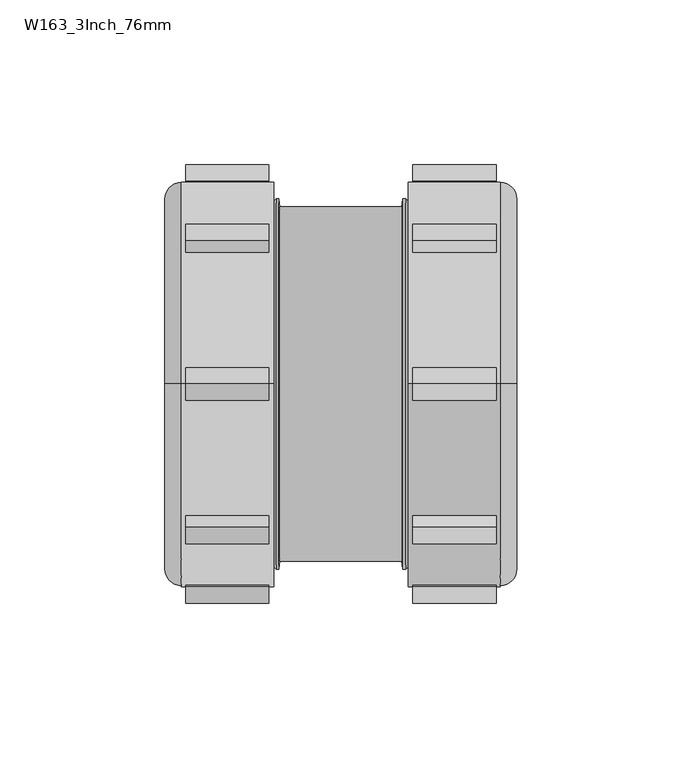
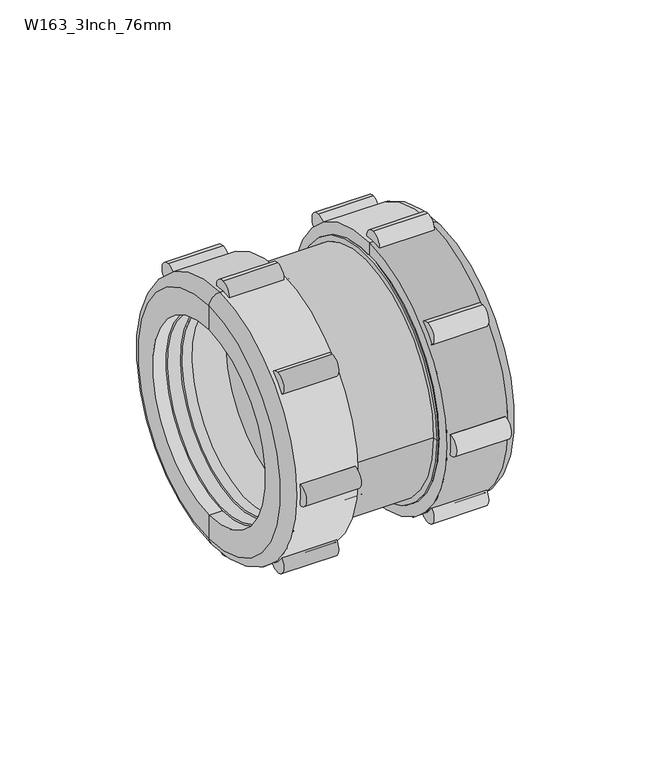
"""IFC4 building model written with IfcOpenShell, lengths in millimetres: pipe fitting geometry, Durapipe_PipeFitting_VulcatheneMechanical_LineCoupler_W16 : W163_3Inch_76mm."""

from ifc_helpers import new_model, si_unit, point, frame, frame_2d, origin, place, context, project, spatial, polyline, circle_curve, ellipse_curve, trimmed, segment, composite_curve, outline, extrude, source, transform, mapped, element, save
from ifc_brep_helpers import plane_surface, cylinder_surface, revolved_surface, advanced_brep


def w163_3inch_76mm_f9ff3fc3(model_context):
    return source(origin(), model_context, "Body", "SolidModel", [
        advanced_brep(
        [(47.1, -35.9917352, 35.9917352), (47.1, 35.9917352, -35.9917352), (47.1, 31.3248304, -31.3248304), (47.1, -31.3248304, 31.3248304), (26.8, -32.8804653, 32.8804653), (26.8, 32.8804653, -32.8804653), (2.1, -32.8804653, 32.8804653), (2.1, 32.8804653, -32.8804653), (2.1, -31.3248304, 31.3248304), (2.1, 31.3248304, -31.3248304), (36.4, -31.3248304, 31.3248304), (36.4, 31.3248304, -31.3248304), (36.4, -30.6884343, 30.6884343), (36.4, 30.6884343, -30.6884343), (41.0, -31.3248304, 31.3248304), (41.0, 31.3248304, -31.3248304), (41.0, 30.6884343, -30.6884343), (41.0, -30.6884343, 30.6884343)],
        [
            (0, 1, circle_curve(frame((47.1, 0.0, 0.0), z_axis=(1.0, 0.0, 0.0), x_axis=(0.0, 0.7071067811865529, -0.7071067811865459)), 50.9)),
            (1, 2),
            (2, 3, circle_curve(frame((47.1, 0.0, 0.0), z_axis=(-1.0, 0.0, 0.0), x_axis=(0.0, 0.7071067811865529, -0.7071067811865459)), 44.3)),
            (3, 0),
            (1, 0, circle_curve(frame((47.1, 0.0, 0.0), z_axis=(1.0, 0.0, 0.0), x_axis=(0.0, 0.7071067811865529, -0.7071067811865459)), 50.9)),
            (3, 2, circle_curve(frame((47.1, 0.0, 0.0), z_axis=(-1.0, 0.0, 0.0), x_axis=(0.0, 0.7071067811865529, -0.7071067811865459)), 44.3)),
            (0, 4),
            (4, 5, circle_curve(frame((26.8, 0.0, 0.0), z_axis=(1.0, 0.0, 0.0), x_axis=(0.0, 0.7071067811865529, -0.7071067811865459)), 46.5)),
            (5, 1),
            (5, 4, circle_curve(frame((26.8, 0.0, 0.0), z_axis=(1.0, 0.0, 0.0), x_axis=(0.0, 0.7071067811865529, -0.7071067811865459)), 46.5)),
            (6, 7, circle_curve(frame((2.1, 0.0, 0.0), z_axis=(1.0, 0.0, 0.0), x_axis=(0.0, 0.7071067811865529, -0.7071067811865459)), 46.5)),
            (7, 5),
            (4, 6),
            (7, 6, circle_curve(frame((2.1, 0.0, 0.0), z_axis=(1.0, 0.0, 0.0), x_axis=(0.0, 0.7071067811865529, -0.7071067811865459)), 46.5)),
            (6, 8),
            (8, 9, circle_curve(frame((2.1, 0.0, 0.0), z_axis=(1.0, 0.0, 0.0), x_axis=(0.0, 0.7071067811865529, -0.7071067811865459)), 44.3)),
            (9, 7),
            (9, 8, circle_curve(frame((2.1, 0.0, 0.0), z_axis=(1.0, 0.0, 0.0), x_axis=(0.0, 0.7071067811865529, -0.7071067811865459)), 44.3)),
            (8, 10),
            (10, 11, circle_curve(frame((36.4, 0.0, 0.0), z_axis=(1.0, 0.0, 0.0), x_axis=(0.0, 0.7071067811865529, -0.7071067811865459)), 44.3)),
            (11, 9),
            (11, 10, circle_curve(frame((36.4, 0.0, 0.0), z_axis=(1.0, 0.0, 0.0), x_axis=(0.0, 0.7071067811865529, -0.7071067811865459)), 44.3)),
            (10, 12),
            (12, 13, circle_curve(frame((36.4, 0.0, 0.0), z_axis=(1.0, 0.0, 0.0), x_axis=(0.0, 0.7071067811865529, -0.7071067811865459)), 43.4)),
            (13, 11),
            (13, 12, circle_curve(frame((36.4, 0.0, 0.0), z_axis=(1.0, 0.0, 0.0), x_axis=(0.0, 0.7071067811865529, -0.7071067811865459)), 43.4)),
            (14, 15, circle_curve(frame((41.0, 0.0, 0.0), z_axis=(1.0, 0.0, 0.0), x_axis=(0.0, 0.7071067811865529, -0.7071067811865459)), 44.3)),
            (15, 16),
            (16, 17, circle_curve(frame((41.0, 0.0, 0.0), z_axis=(-1.0, 0.0, 0.0), x_axis=(0.0, 0.7071067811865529, -0.7071067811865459)), 43.4)),
            (17, 14),
            (15, 14, circle_curve(frame((41.0, 0.0, 0.0), z_axis=(1.0, 0.0, 0.0), x_axis=(0.0, 0.7071067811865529, -0.7071067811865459)), 44.3)),
            (17, 16, circle_curve(frame((41.0, 0.0, 0.0), z_axis=(-1.0, 0.0, 0.0), x_axis=(0.0, 0.7071067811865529, -0.7071067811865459)), 43.4)),
            (2, 15),
            (14, 3),
            (12, 17),
            (16, 13),
        ],
        [
            plane_surface(frame((47.1, 0.0, 0.0), z_axis=(1.0, 0.0, 0.0), x_axis=(0.0, 0.707106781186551, -0.707106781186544))),
            revolved_surface(polyline([(47.1, 35.9917352, -35.9917352), (26.8, 32.8804653, -32.8804653)]), (52.1, 0.0, 0.0), (-1.0000000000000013, 0.0, 0.0)),
            cylinder_surface(frame((0.0293443, 0.0, 0.0), z_axis=(-1.0000000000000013, 0.0, 0.0), x_axis=(0.0, 0.7071067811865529, -0.7071067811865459)), 46.5),
            plane_surface(frame((2.1, 0.0, 0.0), z_axis=(-1.0, 0.0, 0.0), x_axis=(0.0, 0.707106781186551, -0.707106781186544))),
            revolved_surface(polyline([(2.1000000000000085, 31.324830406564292, -31.324830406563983), (36.4000000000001, 31.324830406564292, -31.324830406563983)]), (-1.392991, 0.0, 0.0), (-1.0000000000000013, 0.0, 0.0)),
            plane_surface(frame((36.4, 0.0, 0.0), z_axis=(-1.0, 0.0, 0.0), x_axis=(0.0, 0.707106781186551, -0.707106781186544))),
            plane_surface(frame((41.0, 0.0, 0.0), z_axis=(1.0, 0.0, 0.0), x_axis=(0.0, 0.707106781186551, -0.707106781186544))),
            revolved_surface(polyline([(40.99999999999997, 31.324830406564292, -31.324830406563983), (47.09999999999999, 31.324830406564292, -31.324830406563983)]), (52.1, 0.0, 0.0), (-1.0000000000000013, 0.0, 0.0)),
            revolved_surface(polyline([(36.39999999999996, 30.688434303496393, -30.68843430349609), (40.99999999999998, 30.688434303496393, -30.68843430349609)]), (48.6661924, 0.0, 0.0), (-1.0000000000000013, 0.0, 0.0)),
        ],
        [
            (0, [[1, 2, 3, 4]]),
            (0, [[-2, 5, -4, 6]]),
            (1, [[-1, 7, 8, 9]]),
            (1, [[-5, -9, 10, -7]]),
            (2, [[11, 12, -8, 13]]),
            (2, [[-12, 14, -13, -10]]),
            (3, [[-11, 15, 16, 17]]),
            (3, [[-14, -17, 18, -15]]),
            (4, [[19, 20, 21, -16]]),
            (4, [[-19, -18, -21, 22]]),
            (5, [[-20, 23, 24, 25]]),
            (5, [[-22, -25, 26, -23]]),
            (6, [[27, 28, 29, 30]]),
            (6, [[31, -30, 32, -28]]),
            (7, [[-3, 33, -27, 34]]),
            (7, [[-6, -34, -31, -33]]),
            (8, [[35, -29, 36, -24]]),
            (8, [[-35, -26, -36, -32]]),
        ],
    ),
        advanced_brep(
        [(20.4, 0.0, 61.5), (20.4, 0.0, -61.5), (48.4, 0.0, -61.5), (48.4, 0.0, 61.5), (20.4, 0.0, 53.0), (20.4, 0.0, -53.0), (53.4, 0.0, 56.5), (53.4, 0.0, -56.5), (53.4, 0.0, -45.0), (53.4, 0.0, 45.0), (47.1, 0.0, 53.0), (47.1, 0.0, -53.0), (47.1, 0.0, 45.0), (47.1, 0.0, -45.0)],
        [
            (0, 1, circle_curve(frame((20.4, 0.0, 0.0), z_axis=(1.0, 0.0, 0.0), x_axis=(0.0, 0.0, -1.0000000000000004)), 61.5)),
            (1, 2),
            (2, 3, circle_curve(frame((48.4, 0.0, 0.0), z_axis=(-1.0, 0.0, 0.0), x_axis=(0.0, 0.0, -1.0000000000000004)), 61.5)),
            (3, 0),
            (1, 0, circle_curve(frame((20.4, 0.0, 0.0), z_axis=(1.0, 0.0, 0.0), x_axis=(0.0, 0.0, -1.0000000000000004)), 61.5)),
            (3, 2, circle_curve(frame((48.4, 0.0, 0.0), z_axis=(-1.0, 0.0, 0.0), x_axis=(0.0, 0.0, -1.0000000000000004)), 61.5)),
            (4, 5, circle_curve(frame((20.4, 0.0, 0.0), z_axis=(1.0, 0.0, 0.0), x_axis=(0.0, 0.0, -1.0000000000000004)), 53.0)),
            (5, 1),
            (0, 4),
            (5, 4, circle_curve(frame((20.4, 0.0, 0.0), z_axis=(1.0, 0.0, 0.0), x_axis=(0.0, 0.0, -1.0000000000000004)), 53.0)),
            (6, 7, circle_curve(frame((53.4, 0.0, 0.0), z_axis=(1.0, 0.0, 0.0), x_axis=(0.0, 0.0, -1.0000000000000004)), 56.5)),
            (7, 8),
            (8, 9, circle_curve(frame((53.4, 0.0, 0.0), z_axis=(-1.0, 0.0, 0.0), x_axis=(0.0, 0.0, -1.0000000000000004)), 45.0)),
            (9, 6),
            (7, 6, circle_curve(frame((53.4, 0.0, 0.0), z_axis=(1.0, 0.0, 0.0), x_axis=(0.0, 0.0, -1.0000000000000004)), 56.5)),
            (9, 8, circle_curve(frame((53.4, 0.0, 0.0), z_axis=(-1.0, 0.0, 0.0), x_axis=(0.0, 0.0, -1.0000000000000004)), 45.0)),
            (2, 7, circle_curve(frame((48.4, 0.0, -56.5), z_axis=(0.0, -1.0000000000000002, 0.0), x_axis=(1.0000000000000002, 0.0, 0.0)), 5.0)),
            (6, 3, circle_curve(frame((48.4, 0.0, 56.5), z_axis=(0.0, -1.0000000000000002, 0.0), x_axis=(1.0000000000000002, 0.0, 0.0)), 5.0)),
            (10, 11, circle_curve(frame((47.1, 0.0, 0.0), z_axis=(1.0, 0.0, 0.0), x_axis=(0.0, 0.0, -1.0000000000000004)), 53.0)),
            (11, 5),
            (4, 10),
            (11, 10, circle_curve(frame((47.1, 0.0, 0.0), z_axis=(1.0, 0.0, 0.0), x_axis=(0.0, 0.0, -1.0000000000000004)), 53.0)),
            (12, 13, circle_curve(frame((47.1, 0.0, 0.0), z_axis=(1.0, 0.0, 0.0), x_axis=(0.0, 0.0, -1.0000000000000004)), 45.0)),
            (13, 11),
            (10, 12),
            (13, 12, circle_curve(frame((47.1, 0.0, 0.0), z_axis=(1.0, 0.0, 0.0), x_axis=(0.0, 0.0, -1.0000000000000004)), 45.0)),
            (8, 13),
            (12, 9),
        ],
        [
            cylinder_surface(frame((1614.2018184, 0.0, 0.0), z_axis=(-1.0000000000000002, 0.0, 0.0), x_axis=(0.0, 0.0, -1.0000000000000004)), 61.5),
            plane_surface(frame((20.4, 0.0, 0.0), z_axis=(-1.0, 0.0, 0.0), x_axis=(0.0, 0.0, -1.0))),
            plane_surface(frame((53.4, 0.0, 0.0), z_axis=(1.0, 0.0, 0.0), x_axis=(0.0, 0.0, -1.0))),
            revolved_surface(trimmed(ellipse_curve(frame((48.4, 0.0, -56.5), z_axis=(0.0, 1.0000000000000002, 0.0), x_axis=(1.0000000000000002, 0.0, 0.0)), 5.0, 5.0), [point((53.4, 0.0, -56.5))], [point((48.4, 0.0, -61.5))], True, "CARTESIAN"), (1614.2018184, 0.0, 0.0), (-1.0000000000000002, 0.0, 0.0)),
            revolved_surface(polyline([(20.39999999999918, 0.0, -53.00000000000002), (47.099999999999, 0.0, -53.00000000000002)]), (1614.2018184, 0.0, 0.0), (-1.0000000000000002, 0.0, 0.0)),
            plane_surface(frame((47.1, 0.0, 0.0), z_axis=(-1.0, 0.0, 0.0), x_axis=(0.0, 0.0, -1.0))),
            revolved_surface(polyline([(47.099999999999, 0.0, -45.00000000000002), (53.39999999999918, 0.0, -45.00000000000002)]), (1614.2018184, 0.0, 0.0), (-1.0000000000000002, 0.0, 0.0)),
        ],
        [
            (0, [[1, 2, 3, 4]]),
            (0, [[5, -4, 6, -2]]),
            (1, [[7, 8, -1, 9]]),
            (1, [[10, -9, -5, -8]]),
            (2, [[11, 12, 13, 14]]),
            (2, [[15, -14, 16, -12]]),
            (3, [[-3, 17, -11, 18]]),
            (3, [[-6, -18, -15, -17]]),
            (4, [[19, 20, -7, 21]]),
            (4, [[22, -21, -10, -20]]),
            (5, [[23, 24, -19, 25]]),
            (5, [[26, -25, -22, -24]]),
            (6, [[-13, 27, -23, 28]]),
            (6, [[-16, -28, -26, -27]]),
        ],
    ),
        extrude(outline(composite_curve([segment(trimmed(circle_curve(frame_2d((61.5, 0.0)), 5.0), [point((61.5, 5.0))], [point((61.5, -5.0))], False, "CARTESIAN"), True, "CONTINUOUS"), segment(trimmed(circle_curve(frame_2d((61.5, 0.0)), 5.0), [point((61.5, -5.0))], [point((61.5, 5.0))], False, "CARTESIAN"), True, "CONTINUOUS")], self_intersect=False)), frame((21.9, 0.0, 0.0), z_axis=(1.0, 0.0, 0.0), x_axis=(0.0, 1.0, 0.0)), (0.0, 0.0, 1.0), 25.2),
        extrude(outline(composite_curve([segment(trimmed(circle_curve(frame_2d((43.487067, -43.487067)), 5.0), [point((43.487067, -38.487067))], [point((43.487067, -48.487067))], False, "CARTESIAN"), True, "CONTINUOUS"), segment(trimmed(circle_curve(frame_2d((43.487067, -43.487067)), 5.0), [point((43.487067, -48.487067))], [point((43.487067, -38.487067))], False, "CARTESIAN"), True, "CONTINUOUS")], self_intersect=False)), frame((21.9, 0.0, 0.0), z_axis=(1.0, 0.0, 0.0), x_axis=(0.0, 1.0, 0.0)), (0.0, 0.0, 1.0), 25.2),
        extrude(outline(composite_curve([segment(trimmed(circle_curve(frame_2d((0.0, -61.5)), 5.0), [point((0.0, -56.5))], [point((0.0, -66.5))], False, "CARTESIAN"), True, "CONTINUOUS"), segment(trimmed(circle_curve(frame_2d((0.0, -61.5)), 5.0), [point((0.0, -66.5))], [point((0.0, -56.5))], False, "CARTESIAN"), True, "CONTINUOUS")], self_intersect=False)), frame((21.9, 0.0, 0.0), z_axis=(1.0, 0.0, 0.0), x_axis=(0.0, 1.0, 0.0)), (0.0, 0.0, 1.0), 25.2),
        extrude(outline(composite_curve([segment(trimmed(circle_curve(frame_2d((-43.487067, -43.487067)), 5.0), [point((-43.487067, -38.487067))], [point((-43.487067, -48.487067))], False, "CARTESIAN"), True, "CONTINUOUS"), segment(trimmed(circle_curve(frame_2d((-43.487067, -43.487067)), 5.0), [point((-43.487067, -48.487067))], [point((-43.487067, -38.487067))], False, "CARTESIAN"), True, "CONTINUOUS")], self_intersect=False)), frame((21.9, 0.0, 0.0), z_axis=(1.0, 0.0, 0.0), x_axis=(0.0, 1.0, 0.0)), (0.0, 0.0, 1.0), 25.2),
        extrude(outline(composite_curve([segment(trimmed(circle_curve(frame_2d((-61.5, 0.0)), 5.0), [point((-61.5, 5.0))], [point((-61.5, -5.0))], False, "CARTESIAN"), True, "CONTINUOUS"), segment(trimmed(circle_curve(frame_2d((-61.5, 0.0)), 5.0), [point((-61.5, -5.0))], [point((-61.5, 5.0))], False, "CARTESIAN"), True, "CONTINUOUS")], self_intersect=False)), frame((21.9, 0.0, 0.0), z_axis=(1.0, 0.0, 0.0), x_axis=(0.0, 1.0, 0.0)), (0.0, 0.0, 1.0), 25.2),
        extrude(outline(composite_curve([segment(trimmed(circle_curve(frame_2d((-43.487067, 43.487067)), 5.0), [point((-43.487067, 48.487067))], [point((-43.487067, 38.487067))], False, "CARTESIAN"), True, "CONTINUOUS"), segment(trimmed(circle_curve(frame_2d((-43.487067, 43.487067)), 5.0), [point((-43.487067, 38.487067))], [point((-43.487067, 48.487067))], False, "CARTESIAN"), True, "CONTINUOUS")], self_intersect=False)), frame((21.9, 0.0, 0.0), z_axis=(1.0, 0.0, 0.0), x_axis=(0.0, 1.0, 0.0)), (0.0, 0.0, 1.0), 25.2),
        extrude(outline(composite_curve([segment(trimmed(circle_curve(frame_2d((0.0, 61.5)), 5.0), [point((0.0, 66.5))], [point((0.0, 56.5))], False, "CARTESIAN"), True, "CONTINUOUS"), segment(trimmed(circle_curve(frame_2d((0.0, 61.5)), 5.0), [point((0.0, 56.5))], [point((0.0, 66.5))], False, "CARTESIAN"), True, "CONTINUOUS")], self_intersect=False)), frame((21.9, 0.0, 0.0), z_axis=(1.0, 0.0, 0.0), x_axis=(0.0, 1.0, 0.0)), (0.0, 0.0, 1.0), 25.2),
        extrude(outline(composite_curve([segment(trimmed(circle_curve(frame_2d((43.487067, 43.487067)), 5.0), [point((43.487067, 48.487067))], [point((43.487067, 38.487067))], False, "CARTESIAN"), True, "CONTINUOUS"), segment(trimmed(circle_curve(frame_2d((43.487067, 43.487067)), 5.0), [point((43.487067, 38.487067))], [point((43.487067, 48.487067))], False, "CARTESIAN"), True, "CONTINUOUS")], self_intersect=False)), frame((21.9, 0.0, 0.0), z_axis=(1.0, 0.0, 0.0), x_axis=(0.0, 1.0, 0.0)), (0.0, 0.0, 1.0), 25.2),
        advanced_brep(
        [(-47.1, -35.9917352, -35.9917352), (-47.1, 35.9917352, 35.9917352), (-47.1, 31.3248304, 31.3248304), (-47.1, -31.3248304, -31.3248304), (-26.8, -32.8804653, -32.8804653), (-26.8, 32.8804653, 32.8804653), (-2.1, -32.8804653, -32.8804653), (-2.1, 32.8804653, 32.8804653), (-2.1, -31.3248304, -31.3248304), (-2.1, 31.3248304, 31.3248304), (-36.4, -31.3248304, -31.3248304), (-36.4, 31.3248304, 31.3248304), (-36.4, -30.6884343, -30.6884343), (-36.4, 30.6884343, 30.6884343), (-41.0, -31.3248304, -31.3248304), (-41.0, 31.3248304, 31.3248304), (-41.0, 30.6884343, 30.6884343), (-41.0, -30.6884343, -30.6884343)],
        [
            (0, 1, circle_curve(frame((-47.1, 0.0, 0.0), z_axis=(-1.0, 0.0, 0.0), x_axis=(0.0, 0.7071067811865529, 0.7071067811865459)), 50.9)),
            (1, 2),
            (2, 3, circle_curve(frame((-47.1, 0.0, 0.0), z_axis=(1.0, 0.0, 0.0), x_axis=(0.0, 0.7071067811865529, 0.7071067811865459)), 44.3)),
            (3, 0),
            (1, 0, circle_curve(frame((-47.1, 0.0, 0.0), z_axis=(-1.0, 0.0, 0.0), x_axis=(0.0, 0.7071067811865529, 0.7071067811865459)), 50.9)),
            (3, 2, circle_curve(frame((-47.1, 0.0, 0.0), z_axis=(1.0, 0.0, 0.0), x_axis=(0.0, 0.7071067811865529, 0.7071067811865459)), 44.3)),
            (0, 4),
            (4, 5, circle_curve(frame((-26.8, 0.0, 0.0), z_axis=(-1.0, 0.0, 0.0), x_axis=(0.0, 0.7071067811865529, 0.7071067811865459)), 46.5)),
            (5, 1),
            (5, 4, circle_curve(frame((-26.8, 0.0, 0.0), z_axis=(-1.0, 0.0, 0.0), x_axis=(0.0, 0.7071067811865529, 0.7071067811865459)), 46.5)),
            (6, 7, circle_curve(frame((-2.1, 0.0, 0.0), z_axis=(-1.0, 0.0, 0.0), x_axis=(0.0, 0.7071067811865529, 0.7071067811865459)), 46.5)),
            (7, 5),
            (4, 6),
            (7, 6, circle_curve(frame((-2.1, 0.0, 0.0), z_axis=(-1.0, 0.0, 0.0), x_axis=(0.0, 0.7071067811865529, 0.7071067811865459)), 46.5)),
            (6, 8),
            (8, 9, circle_curve(frame((-2.1, 0.0, 0.0), z_axis=(-1.0, 0.0, 0.0), x_axis=(0.0, 0.7071067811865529, 0.7071067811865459)), 44.3)),
            (9, 7),
            (9, 8, circle_curve(frame((-2.1, 0.0, 0.0), z_axis=(-1.0, 0.0, 0.0), x_axis=(0.0, 0.7071067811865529, 0.7071067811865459)), 44.3)),
            (8, 10),
            (10, 11, circle_curve(frame((-36.4, 0.0, 0.0), z_axis=(-1.0, 0.0, 0.0), x_axis=(0.0, 0.7071067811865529, 0.7071067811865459)), 44.3)),
            (11, 9),
            (11, 10, circle_curve(frame((-36.4, 0.0, 0.0), z_axis=(-1.0, 0.0, 0.0), x_axis=(0.0, 0.7071067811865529, 0.7071067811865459)), 44.3)),
            (10, 12),
            (12, 13, circle_curve(frame((-36.4, 0.0, 0.0), z_axis=(-1.0, 0.0, 0.0), x_axis=(0.0, 0.7071067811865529, 0.7071067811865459)), 43.4)),
            (13, 11),
            (13, 12, circle_curve(frame((-36.4, 0.0, 0.0), z_axis=(-1.0, 0.0, 0.0), x_axis=(0.0, 0.7071067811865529, 0.7071067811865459)), 43.4)),
            (14, 15, circle_curve(frame((-41.0, 0.0, 0.0), z_axis=(-1.0, 0.0, 0.0), x_axis=(0.0, 0.7071067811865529, 0.7071067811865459)), 44.3)),
            (15, 16),
            (16, 17, circle_curve(frame((-41.0, 0.0, 0.0), z_axis=(1.0, 0.0, 0.0), x_axis=(0.0, 0.7071067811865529, 0.7071067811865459)), 43.4)),
            (17, 14),
            (15, 14, circle_curve(frame((-41.0, 0.0, 0.0), z_axis=(-1.0, 0.0, 0.0), x_axis=(0.0, 0.7071067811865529, 0.7071067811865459)), 44.3)),
            (17, 16, circle_curve(frame((-41.0, 0.0, 0.0), z_axis=(1.0, 0.0, 0.0), x_axis=(0.0, 0.7071067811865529, 0.7071067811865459)), 43.4)),
            (2, 15),
            (14, 3),
            (12, 17),
            (16, 13),
        ],
        [
            plane_surface(frame((-47.1, 0.0, 0.0), z_axis=(-1.0, 0.0, 0.0), x_axis=(0.0, 0.707106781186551, 0.707106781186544))),
            revolved_surface(polyline([(-47.1, 35.9917352, 35.9917352), (-26.8, 32.8804653, 32.8804653)]), (-52.1, 0.0, 0.0), (1.0000000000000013, 0.0, 0.0)),
            cylinder_surface(frame((-0.0293443, 0.0, 0.0), z_axis=(1.0000000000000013, 0.0, 0.0), x_axis=(0.0, 0.7071067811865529, 0.7071067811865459)), 46.5),
            plane_surface(frame((-2.1, 0.0, 0.0), z_axis=(1.0, 0.0, 0.0), x_axis=(0.0, 0.707106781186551, 0.707106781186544))),
            revolved_surface(polyline([(-2.1000000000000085, 31.324830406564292, 31.324830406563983), (-36.4000000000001, 31.324830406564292, 31.324830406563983)]), (1.392991, 0.0, 0.0), (1.0000000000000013, 0.0, 0.0)),
            plane_surface(frame((-36.4, 0.0, 0.0), z_axis=(1.0, 0.0, 0.0), x_axis=(0.0, 0.707106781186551, 0.707106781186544))),
            plane_surface(frame((-41.0, 0.0, 0.0), z_axis=(-1.0, 0.0, 0.0), x_axis=(0.0, 0.707106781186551, 0.707106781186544))),
            revolved_surface(polyline([(-40.99999999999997, 31.324830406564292, 31.324830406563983), (-47.09999999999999, 31.324830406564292, 31.324830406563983)]), (-52.1, 0.0, 0.0), (1.0000000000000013, 0.0, 0.0)),
            revolved_surface(polyline([(-36.39999999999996, 30.688434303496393, 30.68843430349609), (-40.99999999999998, 30.688434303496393, 30.68843430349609)]), (-48.6661924, 0.0, 0.0), (1.0000000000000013, 0.0, 0.0)),
        ],
        [
            (0, [[1, 2, 3, 4]]),
            (0, [[-2, 5, -4, 6]]),
            (1, [[-1, 7, 8, 9]]),
            (1, [[-5, -9, 10, -7]]),
            (2, [[11, 12, -8, 13]]),
            (2, [[-12, 14, -13, -10]]),
            (3, [[-11, 15, 16, 17]]),
            (3, [[-14, -17, 18, -15]]),
            (4, [[19, 20, 21, -16]]),
            (4, [[-19, -18, -21, 22]]),
            (5, [[-20, 23, 24, 25]]),
            (5, [[-22, -25, 26, -23]]),
            (6, [[27, 28, 29, 30]]),
            (6, [[31, -30, 32, -28]]),
            (7, [[-3, 33, -27, 34]]),
            (7, [[-6, -34, -31, -33]]),
            (8, [[35, -29, 36, -24]]),
            (8, [[-35, -26, -36, -32]]),
        ],
    ),
        advanced_brep(
        [(-20.4, 0.0, -61.5), (-20.4, 0.0, 61.5), (-48.4, 0.0, 61.5), (-48.4, 0.0, -61.5), (-20.4, 0.0, -53.0), (-20.4, 0.0, 53.0), (-53.4, 0.0, -56.5), (-53.4, 0.0, 56.5), (-53.4, 0.0, 45.0), (-53.4, 0.0, -45.0), (-47.1, 0.0, -53.0), (-47.1, 0.0, 53.0), (-47.1, 0.0, -45.0), (-47.1, 0.0, 45.0)],
        [
            (0, 1, circle_curve(frame((-20.4, 0.0, 0.0), z_axis=(-1.0, 0.0, 0.0), x_axis=(0.0, 0.0, 1.0000000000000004)), 61.5)),
            (1, 2),
            (2, 3, circle_curve(frame((-48.4, 0.0, 0.0), z_axis=(1.0, 0.0, 0.0), x_axis=(0.0, 0.0, 1.0000000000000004)), 61.5)),
            (3, 0),
            (1, 0, circle_curve(frame((-20.4, 0.0, 0.0), z_axis=(-1.0, 0.0, 0.0), x_axis=(0.0, 0.0, 1.0000000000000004)), 61.5)),
            (3, 2, circle_curve(frame((-48.4, 0.0, 0.0), z_axis=(1.0, 0.0, 0.0), x_axis=(0.0, 0.0, 1.0000000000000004)), 61.5)),
            (4, 5, circle_curve(frame((-20.4, 0.0, 0.0), z_axis=(-1.0, 0.0, 0.0), x_axis=(0.0, 0.0, 1.0000000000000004)), 53.0)),
            (5, 1),
            (0, 4),
            (5, 4, circle_curve(frame((-20.4, 0.0, 0.0), z_axis=(-1.0, 0.0, 0.0), x_axis=(0.0, 0.0, 1.0000000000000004)), 53.0)),
            (6, 7, circle_curve(frame((-53.4, 0.0, 0.0), z_axis=(-1.0, 0.0, 0.0), x_axis=(0.0, 0.0, 1.0000000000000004)), 56.5)),
            (7, 8),
            (8, 9, circle_curve(frame((-53.4, 0.0, 0.0), z_axis=(1.0, 0.0, 0.0), x_axis=(0.0, 0.0, 1.0000000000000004)), 45.0)),
            (9, 6),
            (7, 6, circle_curve(frame((-53.4, 0.0, 0.0), z_axis=(-1.0, 0.0, 0.0), x_axis=(0.0, 0.0, 1.0000000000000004)), 56.5)),
            (9, 8, circle_curve(frame((-53.4, 0.0, 0.0), z_axis=(1.0, 0.0, 0.0), x_axis=(0.0, 0.0, 1.0000000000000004)), 45.0)),
            (2, 7, circle_curve(frame((-48.4, 0.0, 56.5), z_axis=(0.0, -1.0000000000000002, 0.0), x_axis=(-1.0000000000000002, 0.0, 0.0)), 5.0)),
            (6, 3, circle_curve(frame((-48.4, 0.0, -56.5), z_axis=(0.0, -1.0000000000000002, 0.0), x_axis=(-1.0000000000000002, 0.0, 0.0)), 5.0)),
            (10, 11, circle_curve(frame((-47.1, 0.0, 0.0), z_axis=(-1.0, 0.0, 0.0), x_axis=(0.0, 0.0, 1.0000000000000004)), 53.0)),
            (11, 5),
            (4, 10),
            (11, 10, circle_curve(frame((-47.1, 0.0, 0.0), z_axis=(-1.0, 0.0, 0.0), x_axis=(0.0, 0.0, 1.0000000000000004)), 53.0)),
            (12, 13, circle_curve(frame((-47.1, 0.0, 0.0), z_axis=(-1.0, 0.0, 0.0), x_axis=(0.0, 0.0, 1.0000000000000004)), 45.0)),
            (13, 11),
            (10, 12),
            (13, 12, circle_curve(frame((-47.1, 0.0, 0.0), z_axis=(-1.0, 0.0, 0.0), x_axis=(0.0, 0.0, 1.0000000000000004)), 45.0)),
            (8, 13),
            (12, 9),
        ],
        [
            cylinder_surface(frame((-1614.2018184, 0.0, 0.0), z_axis=(1.0000000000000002, 0.0, 0.0), x_axis=(0.0, 0.0, 1.0000000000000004)), 61.5),
            plane_surface(frame((-20.4, 0.0, 0.0), z_axis=(1.0, 0.0, 0.0), x_axis=(0.0, 0.0, 1.0))),
            plane_surface(frame((-53.4, 0.0, 0.0), z_axis=(-1.0, 0.0, 0.0), x_axis=(0.0, 0.0, 1.0))),
            revolved_surface(trimmed(ellipse_curve(frame((-48.4, 0.0, 56.5), z_axis=(0.0, 1.0000000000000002, 0.0), x_axis=(-1.0000000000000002, 0.0, 0.0)), 5.0, 5.0), [point((-53.4, 0.0, 56.5))], [point((-48.4, 0.0, 61.5))], True, "CARTESIAN"), (-1614.2018184, 0.0, 0.0), (1.0000000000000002, 0.0, 0.0)),
            revolved_surface(polyline([(-20.39999999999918, 0.0, 53.00000000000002), (-47.099999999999, 0.0, 53.00000000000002)]), (-1614.2018184, 0.0, 0.0), (1.0000000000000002, 0.0, 0.0)),
            plane_surface(frame((-47.1, 0.0, 0.0), z_axis=(1.0, 0.0, 0.0), x_axis=(0.0, 0.0, 1.0))),
            revolved_surface(polyline([(-47.099999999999, 0.0, 45.00000000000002), (-53.39999999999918, 0.0, 45.00000000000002)]), (-1614.2018184, 0.0, 0.0), (1.0000000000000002, 0.0, 0.0)),
        ],
        [
            (0, [[1, 2, 3, 4]]),
            (0, [[5, -4, 6, -2]]),
            (1, [[7, 8, -1, 9]]),
            (1, [[10, -9, -5, -8]]),
            (2, [[11, 12, 13, 14]]),
            (2, [[15, -14, 16, -12]]),
            (3, [[-3, 17, -11, 18]]),
            (3, [[-6, -18, -15, -17]]),
            (4, [[19, 20, -7, 21]]),
            (4, [[22, -21, -10, -20]]),
            (5, [[23, 24, -19, 25]]),
            (5, [[26, -25, -22, -24]]),
            (6, [[-13, 27, -23, 28]]),
            (6, [[-16, -28, -26, -27]]),
        ],
    ),
        extrude(outline(composite_curve([segment(trimmed(circle_curve(frame_2d((61.5, 0.0)), 5.0), [point((61.5, -5.0))], [point((61.5, 5.0))], False, "CARTESIAN"), True, "CONTINUOUS"), segment(trimmed(circle_curve(frame_2d((61.5, 0.0)), 5.0), [point((61.5, 5.0))], [point((61.5, -5.0))], False, "CARTESIAN"), True, "CONTINUOUS")], self_intersect=False)), frame((-47.1, 0.0, 0.0), z_axis=(1.0, 0.0, 0.0), x_axis=(0.0, 1.0, 0.0)), (0.0, 0.0, 1.0), 25.2),
        extrude(outline(composite_curve([segment(trimmed(circle_curve(frame_2d((43.487067, 43.487067)), 5.0), [point((43.487067, 38.487067))], [point((43.487067, 48.487067))], False, "CARTESIAN"), True, "CONTINUOUS"), segment(trimmed(circle_curve(frame_2d((43.487067, 43.487067)), 5.0), [point((43.487067, 48.487067))], [point((43.487067, 38.487067))], False, "CARTESIAN"), True, "CONTINUOUS")], self_intersect=False)), frame((-47.1, 0.0, 0.0), z_axis=(1.0, 0.0, 0.0), x_axis=(0.0, 1.0, 0.0)), (0.0, 0.0, 1.0), 25.2),
        extrude(outline(composite_curve([segment(trimmed(circle_curve(frame_2d((0.0, 61.5)), 5.0), [point((0.0, 56.5))], [point((0.0, 66.5))], False, "CARTESIAN"), True, "CONTINUOUS"), segment(trimmed(circle_curve(frame_2d((0.0, 61.5)), 5.0), [point((0.0, 66.5))], [point((0.0, 56.5))], False, "CARTESIAN"), True, "CONTINUOUS")], self_intersect=False)), frame((-47.1, 0.0, 0.0), z_axis=(1.0, 0.0, 0.0), x_axis=(0.0, 1.0, 0.0)), (0.0, 0.0, 1.0), 25.2),
        extrude(outline(composite_curve([segment(trimmed(circle_curve(frame_2d((-43.487067, 43.487067)), 5.0), [point((-43.487067, 38.487067))], [point((-43.487067, 48.487067))], False, "CARTESIAN"), True, "CONTINUOUS"), segment(trimmed(circle_curve(frame_2d((-43.487067, 43.487067)), 5.0), [point((-43.487067, 48.487067))], [point((-43.487067, 38.487067))], False, "CARTESIAN"), True, "CONTINUOUS")], self_intersect=False)), frame((-47.1, 0.0, 0.0), z_axis=(1.0, 0.0, 0.0), x_axis=(0.0, 1.0, 0.0)), (0.0, 0.0, 1.0), 25.2),
        extrude(outline(composite_curve([segment(trimmed(circle_curve(frame_2d((-61.5, 0.0)), 5.0), [point((-61.5, -5.0))], [point((-61.5, 5.0))], False, "CARTESIAN"), True, "CONTINUOUS"), segment(trimmed(circle_curve(frame_2d((-61.5, 0.0)), 5.0), [point((-61.5, 5.0))], [point((-61.5, -5.0))], False, "CARTESIAN"), True, "CONTINUOUS")], self_intersect=False)), frame((-47.1, 0.0, 0.0), z_axis=(1.0, 0.0, 0.0), x_axis=(0.0, 1.0, 0.0)), (0.0, 0.0, 1.0), 25.2),
        extrude(outline(composite_curve([segment(trimmed(circle_curve(frame_2d((-43.487067, -43.487067)), 5.0), [point((-43.487067, -48.487067))], [point((-43.487067, -38.487067))], False, "CARTESIAN"), True, "CONTINUOUS"), segment(trimmed(circle_curve(frame_2d((-43.487067, -43.487067)), 5.0), [point((-43.487067, -38.487067))], [point((-43.487067, -48.487067))], False, "CARTESIAN"), True, "CONTINUOUS")], self_intersect=False)), frame((-47.1, 0.0, 0.0), z_axis=(1.0, 0.0, 0.0), x_axis=(0.0, 1.0, 0.0)), (0.0, 0.0, 1.0), 25.2),
        extrude(outline(composite_curve([segment(trimmed(circle_curve(frame_2d((0.0, -61.5)), 5.0), [point((0.0, -66.5))], [point((0.0, -56.5))], False, "CARTESIAN"), True, "CONTINUOUS"), segment(trimmed(circle_curve(frame_2d((0.0, -61.5)), 5.0), [point((0.0, -56.5))], [point((0.0, -66.5))], False, "CARTESIAN"), True, "CONTINUOUS")], self_intersect=False)), frame((-47.1, 0.0, 0.0), z_axis=(1.0, 0.0, 0.0), x_axis=(0.0, 1.0, 0.0)), (0.0, 0.0, 1.0), 25.2),
        extrude(outline(composite_curve([segment(trimmed(circle_curve(frame_2d((43.487067, -43.487067)), 5.0), [point((43.487067, -48.487067))], [point((43.487067, -38.487067))], False, "CARTESIAN"), True, "CONTINUOUS"), segment(trimmed(circle_curve(frame_2d((43.487067, -43.487067)), 5.0), [point((43.487067, -38.487067))], [point((43.487067, -48.487067))], False, "CARTESIAN"), True, "CONTINUOUS")], self_intersect=False)), frame((-47.1, 0.0, 0.0), z_axis=(1.0, 0.0, 0.0), x_axis=(0.0, 1.0, 0.0)), (0.0, 0.0, 1.0), 25.2),
        advanced_brep(
        [(-20.4, 0.0, 0.0), (-20.4, 55.5093213, 0.0), (-20.4, -55.5093213, 0.0), (20.4, -55.5093213, 0.0), (20.4, 55.5093213, 0.0), (20.4, 0.0, 0.0), (-18.5730611, -53.7621002, 0.0), (-18.5730611, 53.7621002, 0.0), (18.5730611, 53.7621002, 0.0), (18.5730611, -53.7621002, 0.0), (-18.8369059, -56.2724154, 0.0), (-18.8369059, 56.2724154, 0.0), (-19.6369059, -56.2724154, 0.0), (-19.6369059, 56.2724154, 0.0), (19.6369059, -56.2724154, 0.0), (19.6369059, 56.2724154, 0.0), (18.8369059, -56.2724154, 0.0), (18.8369059, 56.2724154, 0.0)],
        [
            (0, 1),
            (1, 2, circle_curve(frame((-20.4, 0.0, 0.0), z_axis=(-1.0, 0.0, 0.0), x_axis=(0.0, 1.0, 0.0)), 55.5093213)),
            (2, 0),
            (2, 1, circle_curve(frame((-20.4, 0.0, 0.0), z_axis=(-1.0, 0.0, 0.0), x_axis=(0.0, 1.0, 0.0)), 55.5093213)),
            (3, 4, circle_curve(frame((20.4, 0.0, 0.0), z_axis=(1.0, 0.0, 0.0), x_axis=(0.0, 1.0, 0.0)), 55.5093213)),
            (4, 5),
            (5, 3),
            (4, 3, circle_curve(frame((20.4, 0.0, 0.0), z_axis=(1.0, 0.0, 0.0), x_axis=(0.0, 1.0, 0.0)), 55.5093213)),
            (6, 7, circle_curve(frame((-18.5730611, 0.0, 0.0), z_axis=(1.0, 0.0, 0.0), x_axis=(0.0, 1.0, 0.0)), 53.7621002)),
            (7, 8),
            (8, 9, circle_curve(frame((18.5730611, 0.0, 0.0), z_axis=(-1.0, 0.0, 0.0), x_axis=(0.0, 1.0, 0.0)), 53.7621002)),
            (9, 6),
            (7, 6, circle_curve(frame((-18.5730611, 0.0, 0.0), z_axis=(1.0, 0.0, 0.0), x_axis=(0.0, 1.0, 0.0)), 53.7621002)),
            (9, 8, circle_curve(frame((18.5730611, 0.0, 0.0), z_axis=(-1.0, 0.0, 0.0), x_axis=(0.0, 1.0, 0.0)), 53.7621002)),
            (10, 11, circle_curve(frame((-18.8369059, 0.0, 0.0), z_axis=(1.0, 0.0, 0.0), x_axis=(0.0, 1.0, 0.0)), 56.2724154)),
            (11, 7),
            (6, 10),
            (11, 10, circle_curve(frame((-18.8369059, 0.0, 0.0), z_axis=(1.0, 0.0, 0.0), x_axis=(0.0, 1.0, 0.0)), 56.2724154)),
            (12, 13, circle_curve(frame((-19.6369059, 0.0, 0.0), z_axis=(1.0, 0.0, 0.0), x_axis=(0.0, 1.0, 0.0)), 56.2724154)),
            (13, 11),
            (10, 12),
            (13, 12, circle_curve(frame((-19.6369059, 0.0, 0.0), z_axis=(1.0, 0.0, 0.0), x_axis=(0.0, 1.0, 0.0)), 56.2724154)),
            (1, 13),
            (12, 2),
            (14, 15, circle_curve(frame((19.6369059, 0.0, 0.0), z_axis=(1.0, 0.0, 0.0), x_axis=(0.0, 1.0, 0.0)), 56.2724154)),
            (15, 4),
            (3, 14),
            (15, 14, circle_curve(frame((19.6369059, 0.0, 0.0), z_axis=(1.0, 0.0, 0.0), x_axis=(0.0, 1.0, 0.0)), 56.2724154)),
            (16, 17, circle_curve(frame((18.8369059, 0.0, 0.0), z_axis=(1.0, 0.0, 0.0), x_axis=(0.0, 1.0, 0.0)), 56.2724154)),
            (17, 15),
            (14, 16),
            (17, 16, circle_curve(frame((18.8369059, 0.0, 0.0), z_axis=(1.0, 0.0, 0.0), x_axis=(0.0, 1.0, 0.0)), 56.2724154)),
            (8, 17),
            (16, 9),
        ],
        [
            plane_surface(frame((-20.4, 0.0, 0.0), z_axis=(-1.0, 0.0, 0.0), x_axis=(0.0, 1.0, 0.0))),
            plane_surface(frame((20.4, 0.0, 0.0), z_axis=(1.0, 0.0, 0.0), x_axis=(0.0, 1.0, 0.0))),
            cylinder_surface(frame((1552.1518184, 0.0, 0.0), z_axis=(-1.0, 0.0, 0.0), x_axis=(0.0, 1.0, 0.0)), 53.7621002),
            revolved_surface(polyline([(-18.5730611, 53.7621002, 0.0), (-18.8369059, 56.2724154, 0.0)]), (1552.1518184, 0.0, 0.0), (-1.0, 0.0, 0.0)),
            cylinder_surface(frame((1552.1518184, 0.0, 0.0), z_axis=(-1.0, 0.0, 0.0), x_axis=(0.0, 1.0, 0.0)), 56.2724154),
            revolved_surface(polyline([(-19.6369059, 56.2724154, 0.0), (-20.4, 55.5093213, 0.0)]), (1552.1518184, 0.0, 0.0), (-1.0, 0.0, 0.0)),
            revolved_surface(polyline([(20.4, 55.5093213, 0.0), (19.6369059, 56.2724154, 0.0)]), (1552.1518184, 0.0, 0.0), (-1.0, 0.0, 0.0)),
            revolved_surface(polyline([(18.8369059, 56.2724154, 0.0), (18.5730611, 53.7621002, 0.0)]), (1552.1518184, 0.0, 0.0), (-1.0, 0.0, 0.0)),
        ],
        [
            (0, [[1, 2, 3]]),
            (0, [[-3, 4, -1]]),
            (1, [[5, 6, 7]]),
            (1, [[8, -7, -6]]),
            (2, [[9, 10, 11, 12]]),
            (2, [[13, -12, 14, -10]]),
            (3, [[15, 16, -9, 17]]),
            (3, [[18, -17, -13, -16]]),
            (4, [[19, 20, -15, 21]]),
            (4, [[22, -21, -18, -20]]),
            (5, [[-2, 23, -19, 24]]),
            (5, [[-4, -24, -22, -23]]),
            (6, [[25, 26, -5, 27]]),
            (6, [[28, -27, -8, -26]]),
            (4, [[29, 30, -25, 31]]),
            (4, [[32, -31, -28, -30]]),
            (7, [[-11, 33, -29, 34]]),
            (7, [[-14, -34, -32, -33]]),
        ],
    ),
    ])


if __name__ == "__main__":
    model = new_model("IFC4")
    model_context = context("Model", 3, world=origin())
    ifc_project = project(units=[si_unit("LENGTHUNIT", "METRE", prefix="MILLI")], contexts=[model_context])
    site = spatial("IfcSite", under=ifc_project)
    building = spatial("IfcBuilding", under=site)
    placement = place(None, origin())
    w163_3inch_76mm_shape = w163_3inch_76mm_f9ff3fc3(model_context)
    element("IfcPipeFitting", 1, ObjectType="Durapipe_PipeFitting_VulcatheneMechanical_LineCoupler_W16 : W163_3Inch_76mm", at=placement, inside=building, context=model_context, shape_type="MappedRepresentation", body=[
        mapped(w163_3inch_76mm_shape, transform((0.0, 0.0, 0.0), x_axis=(1.0, 0.0, 0.0), y_axis=(0.0, 1.0, 0.0), z_axis=(0.0, 0.0, 1.0))),
    ])
    save(model, "model.ifc")
